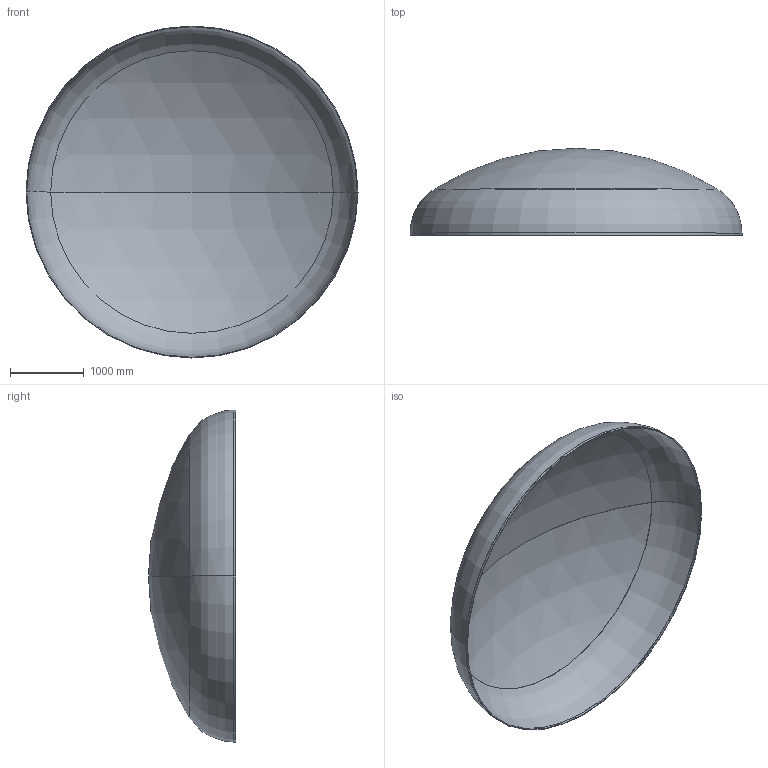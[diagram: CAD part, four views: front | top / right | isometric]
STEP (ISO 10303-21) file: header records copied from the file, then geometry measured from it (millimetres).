
FILE_DESCRIPTION (( 'STEP AP203' ), '1' );
FILE_NAME ('DIN 28013 Korbbogenform_-_Boden DIN 28013 - 4500 x 30 - I - s=9.step', '2016-07-01T23:00:35', ( '' ), ( '' ), 'SwSTEP 2.0', 'SolidWorks 2013', '' );
FILE_SCHEMA (( 'CONFIG_CONTROL_DESIGN' ));
Length unit declared in the file: millimetre
Products named in the file (1): DIN 28013 Korbbogenform_-_Boden DIN 28013 - 4500 x 30 - I - s=9
Bounding box: 4500 x 1179.55 x 4500 mm (x, y, z)
Volume: 201659921.7 mm3; surface area: 44940447.2 mm2
Topology: 1 solids, 1 shells, 13 faces, 24 edges, 14 vertices
Faces by surface type: torus 4, cylinder 4, sphere 4, plane 1
Entity records: 407 total; most frequent: DIRECTION 72, CARTESIAN_POINT 52, ORIENTED_EDGE 48, AXIS2_PLACEMENT_3D 34, EDGE_CURVE 24, CIRCLE 20, EDGE_LOOP 14, VERTEX_POINT 14
